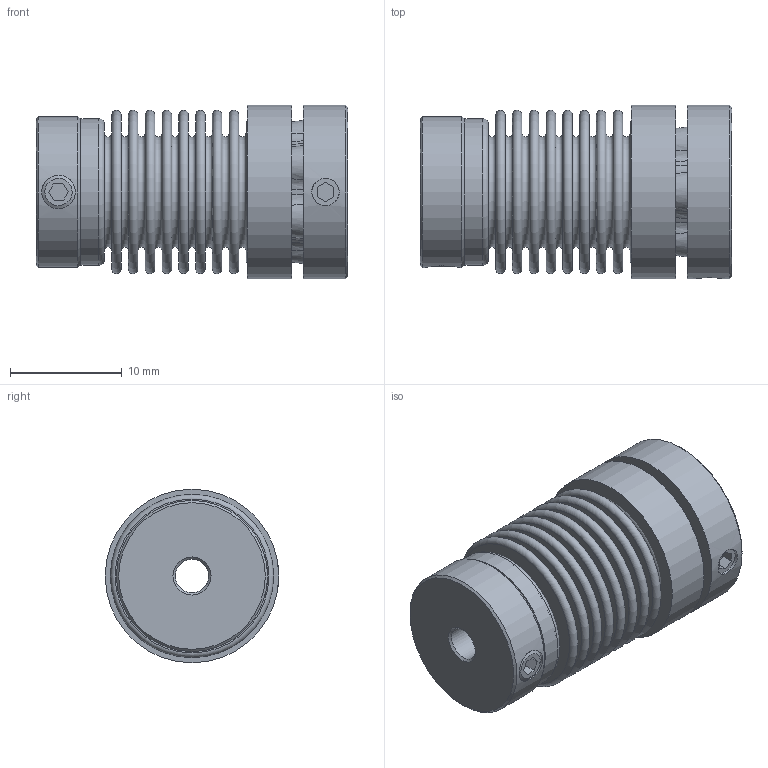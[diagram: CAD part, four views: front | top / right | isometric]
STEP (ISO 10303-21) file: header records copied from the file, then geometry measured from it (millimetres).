
FILE_DESCRIPTION( ( 'KBE1/14 - N7H8 - N14H7 - 98 Sh' ), '1' );
FILE_NAME( 'K:/Konstruktion/Fertigungszeichnungen/Metallbalgkupplung/KB1P/5-10/KB1P-10-28.stp', '14.12.2015', ( 'KBK-Antriebstechnik' ), ( 'KBK-Antriebstechnik' ), 'PSStep 16.0.42', 'Solid Edge St6', ' ' );
FILE_SCHEMA( ( 'AUTOMOTIVE_DESIGN { 1 0 10303 214 1 1 1 1 }' ) );
Length unit declared in the file: millimetre
Products named in the file (6): Assem1; Stecknabe KB1P-10; Balgaufnahme KB2P-10_für Step; MN10_Standard_2; BM10_Standard_0; Socket Set Screw Cup Point_DIN_DIN 916 - M3 x 4-N_8
Assembly tree (6 placements, depth 2):
  Assem1
    Stecknabe KB1P-10
    Balgaufnahme KB2P-10_für Step
    MN10_Standard_2
    BM10_Standard_0
    Socket Set Screw Cup Point_DIN_DIN 916 - M3 x 4-N_8  x2
Bounding box: 27.85 x 15.5 x 15.5 mm (x, y, z)
Volume: 2508.6 mm3; surface area: 6075.7 mm2
Topology: 6 solids, 6 shells, 192 faces, 400 edges, 255 vertices
Faces by surface type: cone 79, plane 61, torus 38, cylinder 14
Full cylindrical faces by diameter (mm): 2.459 x1, 3 x5, 12.9 x3, 13.1 x2, 13.5 x1, 15.5 x2
Entity records: 6188 total; most frequent: DIRECTION 876, CARTESIAN_POINT 875, ORIENTED_EDGE 598, AXIS2_PLACEMENT_3D 399, EDGE_CURVE 299, EDGE_LOOP 290, VERTEX_POINT 244, FACE_OUTER_BOUND 231
